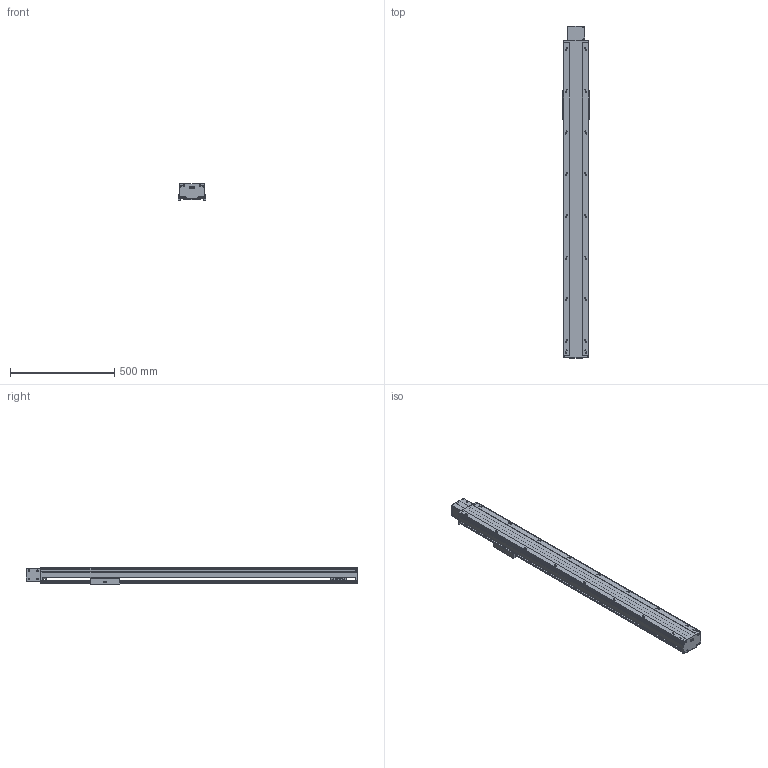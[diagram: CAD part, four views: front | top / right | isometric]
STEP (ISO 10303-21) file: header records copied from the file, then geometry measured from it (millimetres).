
FILE_DESCRIPTION(/* description */ (''),/* implementation_level */ '2;1');
FILE_NAME(/* name */ 'TKB120-FR-1200_asm1_stp_stp.stp',/* time_stamp */ '2016-06-28T16:08:07+08:00',/* author */ (''),/* organization */ (''),/* preprocessor_version */ 'ST-DEVELOPER v15',/* originating_system */ 'SIEMENS PLM Software NX 8.5',/* authorisation */ '');
FILE_SCHEMA (('AUTOMOTIVE_DESIGN { 1 0 10303 214 3 1 1 1 }'));
Length unit declared in the file: millimetre
Products named in the file (3): 200-2; 200-1; TKB120-FR-1200_asm1_stp_stp
Assembly tree (2 placements, depth 2):
  TKB120-FR-1200_asm1_stp_stp
    200-1
    200-2
Bounding box: 134 x 1591 x 80 mm (x, y, z)
Volume: 4060644.6 mm3; surface area: 1644766.7 mm2
Topology: 2 solids, 3 shells, 815 faces, 2389 edges, 1577 vertices
Faces by surface type: cylinder 403, plane 370, cone 42
Full cylindrical faces by diameter (mm): 2.5 x4, 3.3 x20, 4.2 x4, 4.5 x24, 5 x28, 5.5 x18, 6.6 x6, 6.8 x4, 7.5 x4, 8 x12, 9 x6, 9.75 x36, 10.5 x4, 11 x2, 12 x4, 14 x2, 17 x2, 35 x2, 40 x3, 50 x2, 52 x1
Entity records: 26600 total; most frequent: CARTESIAN_POINT 5721, DIRECTION 4387, ORIENTED_EDGE 4028, EDGE_CURVE 2014, AXIS2_PLACEMENT_3D 1670, VERTEX_POINT 1474, EDGE_LOOP 1230, LINE 1047
